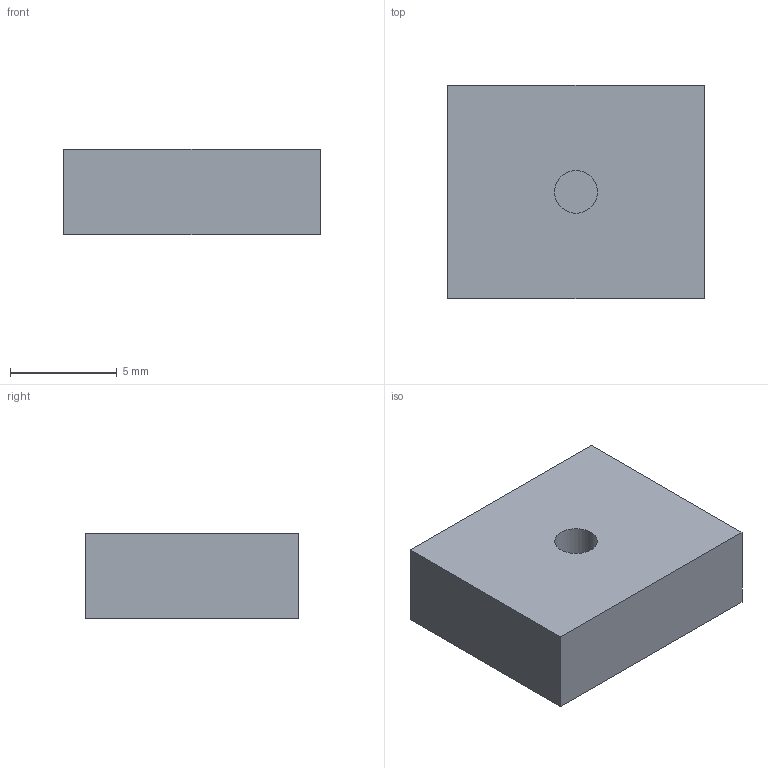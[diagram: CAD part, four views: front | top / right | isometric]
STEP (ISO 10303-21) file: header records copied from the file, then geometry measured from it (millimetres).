
FILE_DESCRIPTION(('Open CASCADE Model'),'2;1');
FILE_NAME('Open CASCADE Shape Model','2000-01-01T00:00:00',('Author'),( 'Open CASCADE'),'Open CASCADE STEP processor 7.9','Open CASCADE 7.9' ,'Unknown');
FILE_SCHEMA(('AUTOMOTIVE_DESIGN { 1 0 10303 214 1 1 1 1 }'));
Length unit declared in the file: millimetre
Products named in the file (1): Open CASCADE STEP translator 7.9 1
Bounding box: 12 x 10 x 4 mm (x, y, z)
Volume: 473.7 mm3; surface area: 428.6 mm2
Topology: 1 solids, 1 shells, 8 faces, 15 edges, 10 vertices
Faces by surface type: plane 7, cylinder 1
Full cylindrical faces by diameter (mm): 2 x1
Entity records: 406 total; most frequent: DIRECTION 65, CARTESIAN_POINT 64, LINE 41, VECTOR 41, ORIENTED_EDGE 30, PCURVE 30, DEFINITIONAL_REPRESENTATION 30, EDGE_CURVE 15
